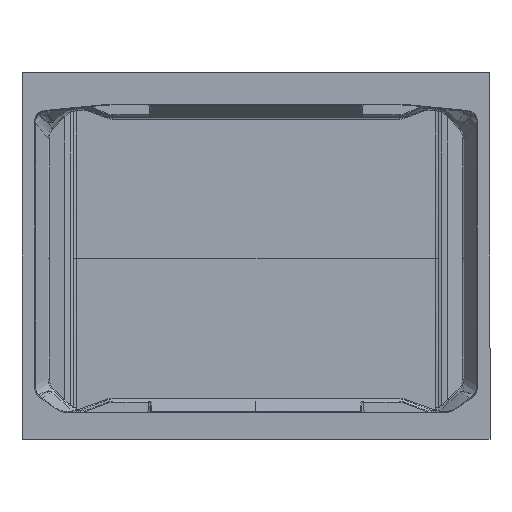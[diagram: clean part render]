
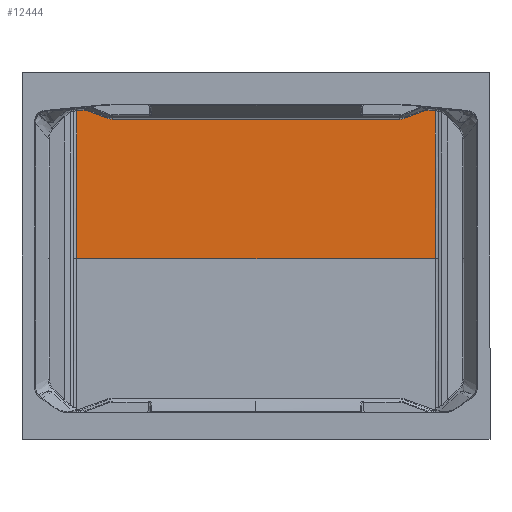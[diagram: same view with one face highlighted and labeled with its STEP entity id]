
A CAD part, front view. The second image highlights one B-rep face of the part: STEP entity #12444.
In plain terms, the highlighted planar face has unit normal (0, -1, 0).
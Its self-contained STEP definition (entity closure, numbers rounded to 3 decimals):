
#339 = CARTESIAN_POINT ( 'NONE',  ( -149.171, 40.454, 136.844 ) ) ;
#688 = VECTOR ( 'NONE', #8369, 1000. ) ;
#1068 = CARTESIAN_POINT ( 'NONE',  ( -171.666, 40.454, 0. ) ) ;
#1352 = EDGE_CURVE ( 'NONE', #3184, #14108, #17594, .T. ) ;
#1369 = ORIENTED_EDGE ( 'NONE', *, *, #3917, .F. ) ;
#1485 = CARTESIAN_POINT ( 'NONE',  ( -166.102, 40.454, 141.814 ) ) ;
#1689 = ORIENTED_EDGE ( 'NONE', *, *, #13181, .T. ) ;
#2258 = AXIS2_PLACEMENT_3D ( 'NONE', #4899, #17245, #15812 ) ;
#2668 = LINE ( 'NONE', #1068, #8790 ) ;
#2787 = CARTESIAN_POINT ( 'NONE',  ( 171.666, 40.454, 0. ) ) ;
#2872 = DIRECTION ( 'NONE',  ( 0., 0., 1. ) ) ;
#3140 = CARTESIAN_POINT ( 'NONE',  ( 163.461, 40.454, 142.068 ) ) ;
#3150 = CARTESIAN_POINT ( 'NONE',  ( -156.312, 40.454, 139.467 ) ) ;
#3177 = VERTEX_POINT ( 'NONE', #17754 ) ;
#3184 = VERTEX_POINT ( 'NONE', #3883 ) ;
#3573 = CARTESIAN_POINT ( 'NONE',  ( 140.529, 40.454, 133.624 ) ) ;
#3592 = ORIENTED_EDGE ( 'NONE', *, *, #20003, .T. ) ;
#3880 = CARTESIAN_POINT ( 'NONE',  ( 137.333, 40.454, 133.342 ) ) ;
#3883 = CARTESIAN_POINT ( 'NONE',  ( -163.461, 40.454, 142.068 ) ) ;
#3917 = EDGE_CURVE ( 'NONE', #19684, #3184, #14957, .T. ) ;
#4401 = ORIENTED_EDGE ( 'NONE', *, *, #17459, .F. ) ;
#4823 = VECTOR ( 'NONE', #19997, 1000. ) ;
#4899 = CARTESIAN_POINT ( 'NONE',  ( 0., 40.454, 0. ) ) ;
#5029 = EDGE_CURVE ( 'NONE', #14108, #11814, #8639, .T. ) ;
#5225 = CARTESIAN_POINT ( 'NONE',  ( 166.102, 40.454, 141.814 ) ) ;
#5715 = EDGE_LOOP ( 'NONE', ( #7293, #7248, #18388, #1689, #12508, #12458, #1369, #4401, #6117, #3592 ) ) ;
#6117 = ORIENTED_EDGE ( 'NONE', *, *, #19688, .T. ) ;
#6146 = VECTOR ( 'NONE', #10146, 1000. ) ;
#6610 = CARTESIAN_POINT ( 'NONE',  ( -171.666, 40.454, 0. ) ) ;
#7137 = CARTESIAN_POINT ( 'NONE',  ( 137.333, 40.454, 133.342 ) ) ;
#7248 = ORIENTED_EDGE ( 'NONE', *, *, #18032, .T. ) ;
#7252 = CARTESIAN_POINT ( 'NONE',  ( -142.043, 40.454, 134.188 ) ) ;
#7293 = ORIENTED_EDGE ( 'NONE', *, *, #14271, .T. ) ;
#7830 = CARTESIAN_POINT ( 'NONE',  ( 155.834, 40.454, 139.293 ) ) ;
#8369 = DIRECTION ( 'NONE',  ( -0.995, 0., 0.096 ) ) ;
#8639 = B_SPLINE_CURVE_WITH_KNOTS ( 'NONE', 3,
 ( #7252, #19957, #12293, #18439 ),
 .UNSPECIFIED., .F., .F.,
 ( 4, 4 ),
 ( 0., 1. ),
 .UNSPECIFIED. ) ;
#8790 = VECTOR ( 'NONE', #2872, 1000. ) ;
#9076 = EDGE_CURVE ( 'NONE', #16645, #19429, #17070, .T. ) ;
#9166 = CARTESIAN_POINT ( 'NONE',  ( 171.666, 40.454, 0. ) ) ;
#9353 = CARTESIAN_POINT ( 'NONE',  ( -142.043, 40.454, 134.188 ) ) ;
#9712 = VECTOR ( 'NONE', #14377, 1000. ) ;
#9835 = CARTESIAN_POINT ( 'NONE',  ( 0., 40.454, 133.342 ) ) ;
#10146 = DIRECTION ( 'NONE',  ( 1., 0., 0. ) ) ;
#10397 = LINE ( 'NONE', #2787, #13261 ) ;
#10455 = VERTEX_POINT ( 'NONE', #15870 ) ;
#10783 = B_SPLINE_CURVE_WITH_KNOTS ( 'NONE', 3,
 ( #3140, #7830, #13993, #11070 ),
 .UNSPECIFIED., .F., .F.,
 ( 4, 4 ),
 ( 0., 1. ),
 .UNSPECIFIED. ) ;
#10883 = VERTEX_POINT ( 'NONE', #6610 ) ;
#10886 = FACE_OUTER_BOUND ( 'NONE', #5715, .T. ) ;
#11070 = CARTESIAN_POINT ( 'NONE',  ( 142.043, 40.454, 134.188 ) ) ;
#11345 = CARTESIAN_POINT ( 'NONE',  ( -142.043, 40.454, 134.188 ) ) ;
#11361 = CARTESIAN_POINT ( 'NONE',  ( 142.043, 40.454, 134.188 ) ) ;
#11596 = CARTESIAN_POINT ( 'NONE',  ( 142.043, 40.454, 134.188 ) ) ;
#11814 = VERTEX_POINT ( 'NONE', #11877 ) ;
#11877 = CARTESIAN_POINT ( 'NONE',  ( -137.333, 40.454, 133.342 ) ) ;
#12059 = CARTESIAN_POINT ( 'NONE',  ( 0., 40.454, 0. ) ) ;
#12293 = CARTESIAN_POINT ( 'NONE',  ( -138.953, 40.454, 133.342 ) ) ;
#12444 = ADVANCED_FACE ( 'NONE', ( #10886 ), #18773, .F. ) ;
#12458 = ORIENTED_EDGE ( 'NONE', *, *, #1352, .F. ) ;
#12508 = ORIENTED_EDGE ( 'NONE', *, *, #5029, .F. ) ;
#13181 = EDGE_CURVE ( 'NONE', #19429, #11814, #15893, .T. ) ;
#13261 = VECTOR ( 'NONE', #16757, 1000. ) ;
#13993 = CARTESIAN_POINT ( 'NONE',  ( 148.694, 40.454, 136.667 ) ) ;
#14094 = CARTESIAN_POINT ( 'NONE',  ( -163.461, 40.454, 142.068 ) ) ;
#14108 = VERTEX_POINT ( 'NONE', #11345 ) ;
#14271 = EDGE_CURVE ( 'NONE', #3177, #10455, #16048, .T. ) ;
#14377 = DIRECTION ( 'NONE',  ( -1., 0., 0. ) ) ;
#14957 = LINE ( 'NONE', #1485, #4823 ) ;
#15812 = DIRECTION ( 'NONE',  ( 0., 0., 1. ) ) ;
#15870 = CARTESIAN_POINT ( 'NONE',  ( 163.461, 40.454, 142.068 ) ) ;
#15890 = VERTEX_POINT ( 'NONE', #9166 ) ;
#15893 = LINE ( 'NONE', #9835, #9712 ) ;
#16048 = LINE ( 'NONE', #5225, #688 ) ;
#16645 = VERTEX_POINT ( 'NONE', #11361 ) ;
#16757 = DIRECTION ( 'NONE',  ( 0., 0., 1. ) ) ;
#17070 = B_SPLINE_CURVE_WITH_KNOTS ( 'NONE', 3,
 ( #11596, #3573, #17752, #3880 ),
 .UNSPECIFIED., .F., .F.,
 ( 4, 4 ),
 ( 0., 1. ),
 .UNSPECIFIED. ) ;
#17245 = DIRECTION ( 'NONE',  ( 0., 1., 0. ) ) ;
#17459 = EDGE_CURVE ( 'NONE', #10883, #19684, #2668, .T. ) ;
#17594 = B_SPLINE_CURVE_WITH_KNOTS ( 'NONE', 3,
 ( #14094, #3150, #339, #9353 ),
 .UNSPECIFIED., .F., .F.,
 ( 4, 4 ),
 ( 0., 1. ),
 .UNSPECIFIED. ) ;
#17752 = CARTESIAN_POINT ( 'NONE',  ( 138.959, 40.454, 133.342 ) ) ;
#17754 = CARTESIAN_POINT ( 'NONE',  ( 171.666, 40.454, 141.28 ) ) ;
#18032 = EDGE_CURVE ( 'NONE', #10455, #16645, #10783, .T. ) ;
#18388 = ORIENTED_EDGE ( 'NONE', *, *, #9076, .T. ) ;
#18439 = CARTESIAN_POINT ( 'NONE',  ( -137.333, 40.454, 133.342 ) ) ;
#18773 = PLANE ( 'NONE',  #2258 ) ;
#19250 = CARTESIAN_POINT ( 'NONE',  ( -171.666, 40.454, 141.28 ) ) ;
#19353 = LINE ( 'NONE', #12059, #6146 ) ;
#19429 = VERTEX_POINT ( 'NONE', #7137 ) ;
#19684 = VERTEX_POINT ( 'NONE', #19250 ) ;
#19688 = EDGE_CURVE ( 'NONE', #10883, #15890, #19353, .T. ) ;
#19957 = CARTESIAN_POINT ( 'NONE',  ( -140.526, 40.454, 133.623 ) ) ;
#19997 = DIRECTION ( 'NONE',  ( 0.995, 0., 0.096 ) ) ;
#20003 = EDGE_CURVE ( 'NONE', #15890, #3177, #10397, .T. ) ;
